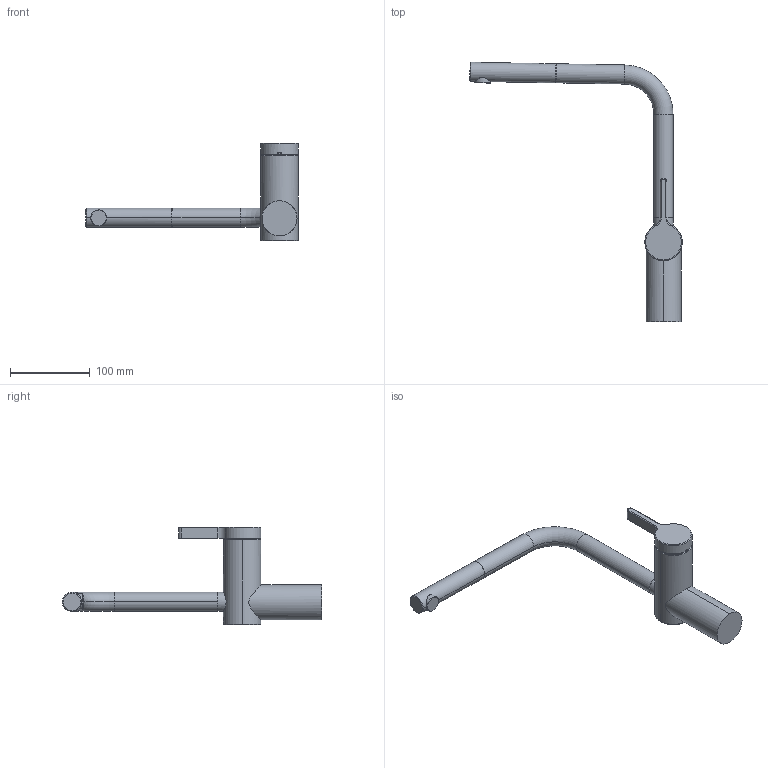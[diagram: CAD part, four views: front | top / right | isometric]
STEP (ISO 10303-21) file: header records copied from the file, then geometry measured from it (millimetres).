
FILE_DESCRIPTION((''),'2;1');
FILE_NAME('10_231_103_000','2012-01-05T',('ahf'),(''),'PRO/ENGINEER BY PARAMETRIC TECHNOLOGY CORPORATION, 2011080','PRO/ENGINEER BY PARAMETRIC TECHNOLOGY CORPORATION, 2011080','');
FILE_SCHEMA(('AUTOMOTIVE_DESIGN_CC2 { 1 2 10303 214 -1 1 5 2 }'));
Length unit declared in the file: millimetre
Products named in the file (1): 10_231_103_000
Bounding box: 267.03 x 326.12 x 123.1 mm (x, y, z)
Volume: 526323.8 mm3; surface area: 67954.1 mm2
Topology: 1 solids, 1 shells, 58 faces, 124 edges, 76 vertices
Faces by surface type: cylinder 26, plane 14, torus 13, sphere 2, cone 2, bspline 1
Entity records: 2472 total; most frequent: CARTESIAN_POINT 666, DIRECTION 303, ORIENTED_EDGE 248, AXIS2_PLACEMENT_3D 134, EDGE_CURVE 124, CIRCLE 77, VERTEX_POINT 76, FILL_AREA_STYLE_COLOUR 67
